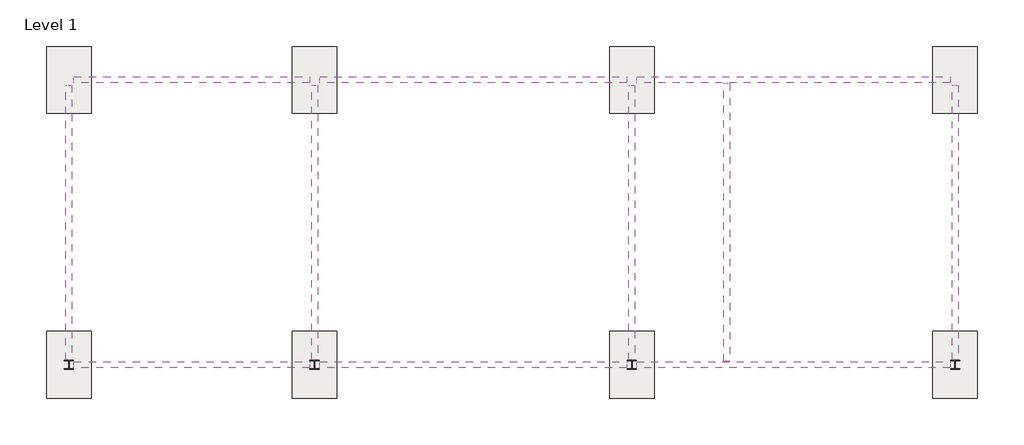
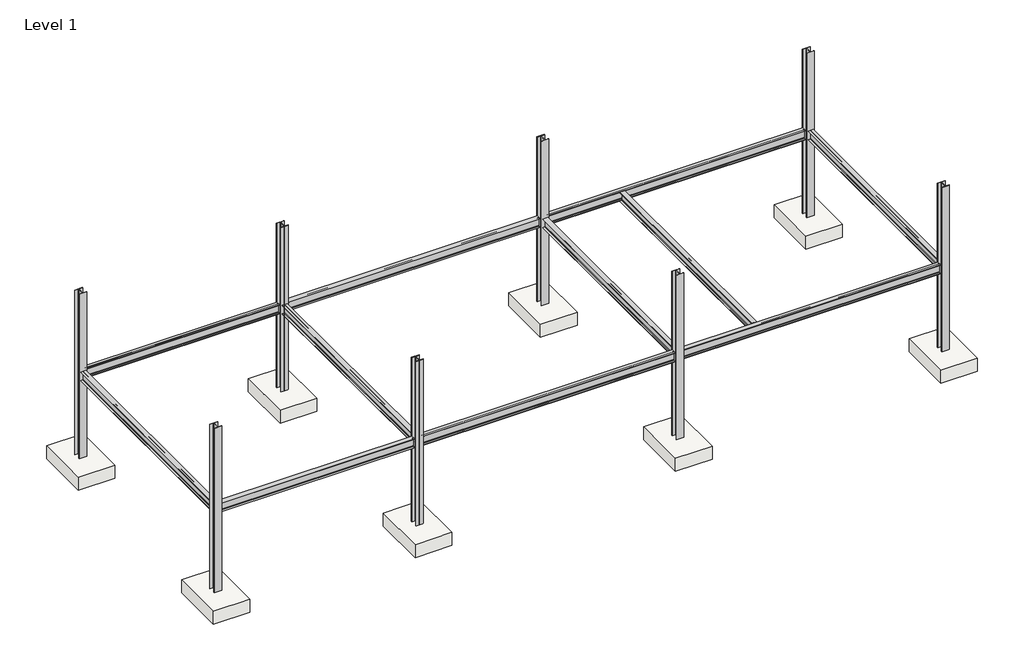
# One storey: 11 beams, 8 columns, 8 slabs.
"""IFC4 building model written with IfcOpenShell, lengths in millimetres."""

from ifc_helpers import new_model, si_unit, origin, place, context, project, spatial, transform, mapped, element, save
from components import w_wide_flange_w12x26_3f871b78, w_wide_flange_w12x26_4810f4f7, w_wide_flange_w12x26_0d1df96e, w_wide_flange_w12x26_08aea776, w_wide_flange_w12x26_b457d077, w_wide_flange_column_w10x49_a6c59e3f, slab_5ba74754

model = new_model("IFC4")

# Units and contexts
model_context = context("Model", 3, world=origin())
ifc_project = project(units=[si_unit("LENGTHUNIT", "METRE", prefix="MILLI")], contexts=[model_context])

# Site, building, storey
site = spatial("IfcSite", under=ifc_project)
building = spatial("IfcBuilding", under=site)
storey = spatial("IfcBuildingStorey", under=building, Name="Level 1", Elevation=0.0)

# Beams
placement = place(None, origin())
w_wide_flange_w12x26_shape = w_wide_flange_w12x26_3f871b78(model_context)
element("IfcBeam", 1, ObjectType="W-Wide Flange : W12X26", at=placement, inside=storey, context=model_context, shape_type="MappedRepresentation", body=[
    mapped(w_wide_flange_w12x26_shape, transform((-18444.2117074, 20379.1714933, 2892.821875), x_axis=(1.0, 0.0, 0.0), y_axis=(0.0, 1.0, 0.0), z_axis=(0.0, 0.0, 1.0))),
])
element("IfcBeam", 2, ObjectType="W-Wide Flange : W12X26", at=placement, inside=storey, context=model_context, shape_type="MappedRepresentation", body=[
    mapped(w_wide_flange_w12x26_shape, transform((-18444.2117074, 12590.8050464, 2892.821875), x_axis=(-1.0, 0.0, 0.0), y_axis=(0.0, -1.0, 0.0), z_axis=(0.0, 0.0, 1.0))),
])
w_wide_flange_w12x26_2_shape = w_wide_flange_w12x26_4810f4f7(model_context)
element("IfcBeam", 3, ObjectType="W-Wide Flange : W12X26", at=placement, inside=storey, context=model_context, shape_type="MappedRepresentation", body=[
    mapped(w_wide_flange_w12x26_2_shape, transform((-21803.8991943, 16484.9882699, 2892.821875), x_axis=(0.0, -1.0, 0.0), y_axis=(1.0, 0.0, 0.0), z_axis=(0.0, 0.0, 1.0))),
])
element("IfcBeam", 4, ObjectType="W-Wide Flange : W12X26", at=placement, inside=storey, context=model_context, shape_type="MappedRepresentation", body=[
    mapped(w_wide_flange_w12x26_2_shape, transform((-15084.5242206, 16484.9882699, 2892.821875), x_axis=(0.0, -1.0, 0.0), y_axis=(1.0, 0.0, 0.0), z_axis=(0.0, 0.0, 1.0))),
])
element("IfcBeam", 5, ObjectType="W-Wide Flange : W12X26", at=placement, inside=storey, context=model_context, shape_type="MappedRepresentation", body=[
    mapped(w_wide_flange_w12x26_2_shape, transform((-6411.4991943, 16484.9882699, 2892.821875), x_axis=(0.0, -1.0, 0.0), y_axis=(1.0, 0.0, 0.0), z_axis=(0.0, 0.0, 1.0))),
])
element("IfcBeam", 6, ObjectType="W-Wide Flange : W12X26", at=placement, inside=storey, context=model_context, shape_type="MappedRepresentation", body=[
    mapped(w_wide_flange_w12x26_2_shape, transform((2427.7008057, 16484.9882699, 2892.821875), x_axis=(0.0, 1.0, 0.0), y_axis=(-1.0, 0.0, 0.0), z_axis=(0.0, 0.0, 1.0))),
])
w_wide_flange_w12x26_3_shape = w_wide_flange_w12x26_0d1df96e(model_context)
element("IfcBeam", 7, ObjectType="W-Wide Flange : W12X26", at=placement, inside=storey, context=model_context, shape_type="MappedRepresentation", body=[
    mapped(w_wide_flange_w12x26_3_shape, transform((-10748.0117074, 20379.1714933, 2892.821875), x_axis=(1.0, 0.0, 0.0), y_axis=(0.0, 1.0, 0.0), z_axis=(0.0, 0.0, 1.0))),
])
element("IfcBeam", 8, ObjectType="W-Wide Flange : W12X26", at=placement, inside=storey, context=model_context, shape_type="MappedRepresentation", body=[
    mapped(w_wide_flange_w12x26_3_shape, transform((-10748.0117074, 12590.8050464, 2892.821875), x_axis=(1.0, 0.0, 0.0), y_axis=(0.0, 1.0, 0.0), z_axis=(0.0, 0.0, 1.0))),
])
w_wide_flange_w12x26_4_shape = w_wide_flange_w12x26_08aea776(model_context)
element("IfcBeam", 9, ObjectType="W-Wide Flange : W12X26", at=placement, inside=storey, context=model_context, shape_type="MappedRepresentation", body=[
    mapped(w_wide_flange_w12x26_4_shape, transform((-1991.8991943, 20379.1714933, 2892.821875), x_axis=(1.0, 0.0, 0.0), y_axis=(0.0, 1.0, 0.0), z_axis=(0.0, 0.0, 1.0))),
])
element("IfcBeam", 10, ObjectType="W-Wide Flange : W12X26", at=placement, inside=storey, context=model_context, shape_type="MappedRepresentation", body=[
    mapped(w_wide_flange_w12x26_4_shape, transform((-1991.8991943, 12590.8050464, 2892.821875), x_axis=(1.0, 0.0, 0.0), y_axis=(0.0, 1.0, 0.0), z_axis=(0.0, 0.0, 1.0))),
])
w_wide_flange_w12x26_5_shape = w_wide_flange_w12x26_b457d077(model_context)
element("IfcBeam", 11, ObjectType="W-Wide Flange : W12X26", at=placement, inside=storey, context=model_context, shape_type="MappedRepresentation", body=[
    mapped(w_wide_flange_w12x26_5_shape, transform((-3820.6991943, 16484.9882699, 2892.821875), x_axis=(0.0, -1.0, 0.0), y_axis=(1.0, 0.0, 0.0), z_axis=(0.0, 0.0, 1.0))),
])

# Columns
w_wide_flange_column_w10x49_shape = w_wide_flange_column_w10x49_a6c59e3f(model_context)
element("IfcColumn", 12, ObjectType="W-Wide Flange-Column : W10X49", at=placement, inside=storey, context=model_context, shape_type="MappedRepresentation", body=[
    mapped(w_wide_flange_column_w10x49_shape, transform((-21803.8991943, 20379.1714933, 0.0), x_axis=(1.0, 0.0, 0.0), y_axis=(0.0, 1.0, 0.0), z_axis=(0.0, 0.0, 1.0))),
])
element("IfcColumn", 13, ObjectType="W-Wide Flange-Column : W10X49", at=placement, inside=storey, context=model_context, shape_type="MappedRepresentation", body=[
    mapped(w_wide_flange_column_w10x49_shape, transform((-21803.8991943, 12590.8050464, 0.0), x_axis=(1.0, 0.0, 0.0), y_axis=(0.0, 1.0, 0.0), z_axis=(0.0, 0.0, 1.0))),
])
element("IfcColumn", 14, ObjectType="W-Wide Flange-Column : W10X49", at=placement, inside=storey, context=model_context, shape_type="MappedRepresentation", body=[
    mapped(w_wide_flange_column_w10x49_shape, transform((-15084.5242206, 20379.1714933, 0.0), x_axis=(1.0, 0.0, 0.0), y_axis=(0.0, 1.0, 0.0), z_axis=(0.0, 0.0, 1.0))),
])
element("IfcColumn", 15, ObjectType="W-Wide Flange-Column : W10X49", at=placement, inside=storey, context=model_context, shape_type="MappedRepresentation", body=[
    mapped(w_wide_flange_column_w10x49_shape, transform((-6411.4991943, 20379.1714933, 0.0), x_axis=(1.0, 0.0, 0.0), y_axis=(0.0, 1.0, 0.0), z_axis=(0.0, 0.0, 1.0))),
])
element("IfcColumn", 16, ObjectType="W-Wide Flange-Column : W10X49", at=placement, inside=storey, context=model_context, shape_type="MappedRepresentation", body=[
    mapped(w_wide_flange_column_w10x49_shape, transform((2427.7008057, 20379.1714933, 0.0), x_axis=(1.0, 0.0, 0.0), y_axis=(0.0, 1.0, 0.0), z_axis=(0.0, 0.0, 1.0))),
])
element("IfcColumn", 17, ObjectType="W-Wide Flange-Column : W10X49", at=placement, inside=storey, context=model_context, shape_type="MappedRepresentation", body=[
    mapped(w_wide_flange_column_w10x49_shape, transform((-15084.5242206, 12590.8050464, 0.0), x_axis=(1.0, 0.0, 0.0), y_axis=(0.0, 1.0, 0.0), z_axis=(0.0, 0.0, 1.0))),
])
element("IfcColumn", 18, ObjectType="W-Wide Flange-Column : W10X49", at=placement, inside=storey, context=model_context, shape_type="MappedRepresentation", body=[
    mapped(w_wide_flange_column_w10x49_shape, transform((-6411.4991943, 12590.8050464, 0.0), x_axis=(1.0, 0.0, 0.0), y_axis=(0.0, 1.0, 0.0), z_axis=(0.0, 0.0, 1.0))),
])
element("IfcColumn", 19, ObjectType="W-Wide Flange-Column : W10X49", at=placement, inside=storey, context=model_context, shape_type="MappedRepresentation", body=[
    mapped(w_wide_flange_column_w10x49_shape, transform((2427.7008057, 12590.8050464, 0.0), x_axis=(1.0, 0.0, 0.0), y_axis=(0.0, 1.0, 0.0), z_axis=(0.0, 0.0, 1.0))),
])

# Slabs
slab_shape = slab_5ba74754(model_context)
element("IfcSlab", 20, ObjectType="Footing-Rectangular : 72\" x 48\" x 18\"", at=placement, inside=storey, context=model_context, shape_type="MappedRepresentation", body=[
    mapped(slab_shape, transform((-21803.8991943, 20379.1714933, 0.0), x_axis=(1.0, 0.0, 0.0), y_axis=(0.0, 1.0, 0.0), z_axis=(0.0, 0.0, 1.0))),
])
element("IfcSlab", 21, ObjectType="Footing-Rectangular : 72\" x 48\" x 18\"", at=placement, inside=storey, context=model_context, shape_type="MappedRepresentation", body=[
    mapped(slab_shape, transform((-21803.8991943, 12590.8050464, 0.0), x_axis=(1.0, 0.0, 0.0), y_axis=(0.0, 1.0, 0.0), z_axis=(0.0, 0.0, 1.0))),
])
element("IfcSlab", 22, ObjectType="Footing-Rectangular : 72\" x 48\" x 18\"", at=placement, inside=storey, context=model_context, shape_type="MappedRepresentation", body=[
    mapped(slab_shape, transform((-15084.5242206, 20379.1714933, 0.0), x_axis=(1.0, 0.0, 0.0), y_axis=(0.0, 1.0, 0.0), z_axis=(0.0, 0.0, 1.0))),
])
element("IfcSlab", 23, ObjectType="Footing-Rectangular : 72\" x 48\" x 18\"", at=placement, inside=storey, context=model_context, shape_type="MappedRepresentation", body=[
    mapped(slab_shape, transform((-6411.4991943, 20379.1714933, 0.0), x_axis=(1.0, 0.0, 0.0), y_axis=(0.0, 1.0, 0.0), z_axis=(0.0, 0.0, 1.0))),
])
element("IfcSlab", 24, ObjectType="Footing-Rectangular : 72\" x 48\" x 18\"", at=placement, inside=storey, context=model_context, shape_type="MappedRepresentation", body=[
    mapped(slab_shape, transform((2427.7008057, 20379.1714933, 0.0), x_axis=(1.0, 0.0, 0.0), y_axis=(0.0, 1.0, 0.0), z_axis=(0.0, 0.0, 1.0))),
])
element("IfcSlab", 25, ObjectType="Footing-Rectangular : 72\" x 48\" x 18\"", at=placement, inside=storey, context=model_context, shape_type="MappedRepresentation", body=[
    mapped(slab_shape, transform((-15084.5242206, 12590.8050464, 0.0), x_axis=(1.0, 0.0, 0.0), y_axis=(0.0, 1.0, 0.0), z_axis=(0.0, 0.0, 1.0))),
])
element("IfcSlab", 26, ObjectType="Footing-Rectangular : 72\" x 48\" x 18\"", at=placement, inside=storey, context=model_context, shape_type="MappedRepresentation", body=[
    mapped(slab_shape, transform((-6411.4991943, 12590.8050464, 0.0), x_axis=(1.0, 0.0, 0.0), y_axis=(0.0, 1.0, 0.0), z_axis=(0.0, 0.0, 1.0))),
])
element("IfcSlab", 27, ObjectType="Footing-Rectangular : 72\" x 48\" x 18\"", at=placement, inside=storey, context=model_context, shape_type="MappedRepresentation", body=[
    mapped(slab_shape, transform((2427.7008057, 12590.8050464, 0.0), x_axis=(1.0, 0.0, 0.0), y_axis=(0.0, 1.0, 0.0), z_axis=(0.0, 0.0, 1.0))),
])

save(model, "model.ifc")
